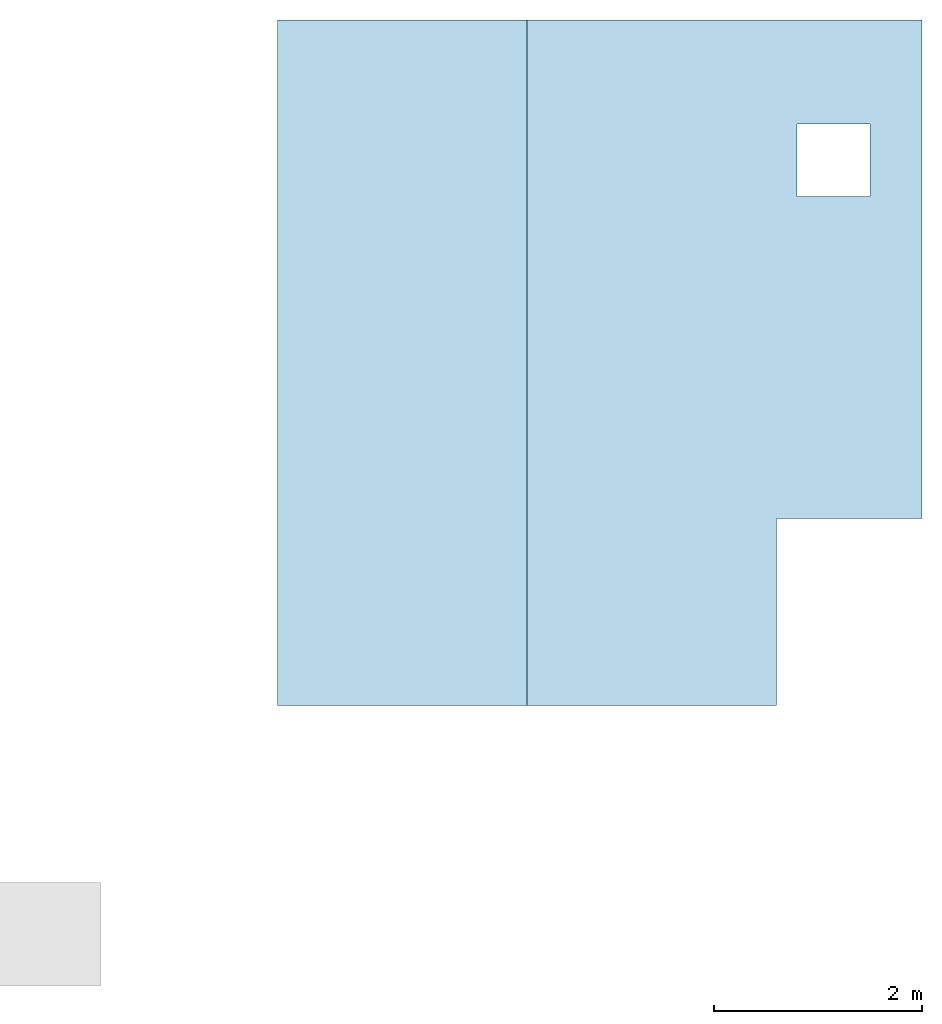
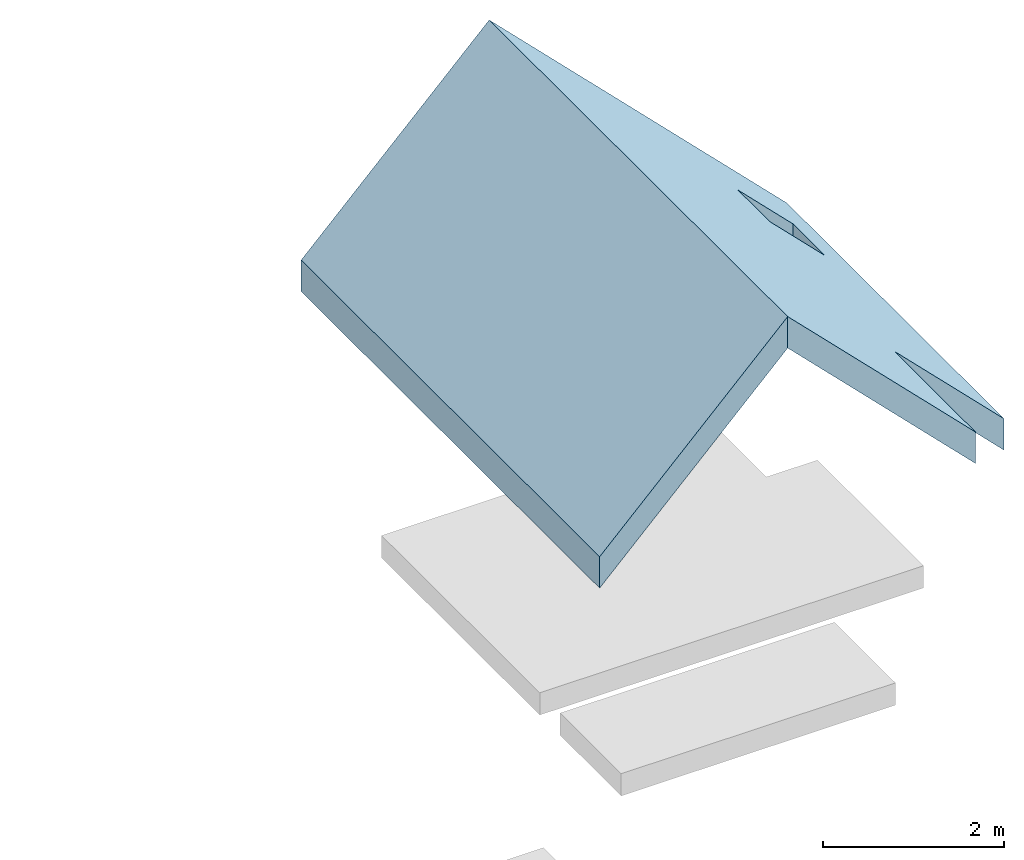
# Not in any storey, part 1 of 2: 2 slabs, 1 element without a shape of its own.
"""IFC4 building model written with IfcOpenShell, lengths in millimetres."""

from ifc_helpers import new_model, si_unit, frame, origin_with_axes, place, context, subcontext, project, spatial, triangles, material, type_object, element, aggregate, save


model = new_model("IFC4")

# Units and contexts
model_context = context("Model", 3, world=origin_with_axes())
body_context = subcontext(model_context, "Body", "Model", "MODEL_VIEW")
ifc_project = project(units=[si_unit("LENGTHUNIT", "METRE", prefix="MILLI"), si_unit("AREAUNIT", "SQUARE_METRE"), si_unit("VOLUMEUNIT", "CUBIC_METRE")], contexts=[model_context])

# Sites, building
site_1_placement = place(None, origin_with_axes())
site_1 = spatial("IfcSite", under=ifc_project, at=site_1_placement, Name="environment - site", CompositionType="COMPLEX")
site_2_placement = place(site_1_placement, frame((5800.000000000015, 5800.000000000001, -1300.0000000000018), z_axis=(0.0, 0.0, 1.0), x_axis=(1.0, 0.0, 0.0)))
site_2 = spatial("IfcSite", under=site_1, at=site_2_placement, Name="house - site", CompositionType="PARTIAL")
building_placement = place(site_2_placement, frame((-2799.999999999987, -2799.9999999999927, 1300.0), z_axis=(0.0, 0.0, 1.0), x_axis=(1.0, 0.0, 0.0)))
building = spatial("IfcBuilding", under=site_2, at=building_placement, Name="Single-family house", CompositionType="ELEMENT")

# Roof, slabs
roof_type = type_object("IfcRoofType", Name="house - roof", PredefinedType="GABLE_ROOF")
roof_placement = place(building_placement, frame((-1.1550582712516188e-11, -2.3101165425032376e-11, 1800.0000000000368), z_axis=(0.0, 0.0, 1.0), x_axis=(1.0, 0.0, 0.0)))
roof = element("IfcRoof", 1, at=roof_placement, inside=building, type_object=roof_type, Name="house - roof", ObjectType="gable_roof")
ifc_material = material(Name="composite_element_roof")
slab_type_1 = type_object("IfcSlabType", Name="house - roof - slab left", PredefinedType="ROOF")
slab_1_placement = place(roof_placement, frame((2100.0000000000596, 5999.999999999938, 3475.735931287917), z_axis=(-0.707106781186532, -1.4988010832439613e-15, 0.7071067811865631), x_axis=(8.373406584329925e-15, -1.0, 6.2537817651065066e-15)))
slab_1 = element("IfcSlab", 2, at=slab_1_placement, type_object=slab_type_1, material=ifc_material, Name="house - roof - slab left", ObjectType="roof", context=body_context, shape_type="Tessellation", body=[
    triangles([(6299.999999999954, -3094.1125496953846, 300.00000000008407), (-300.0000000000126, 299.9999999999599, 300.0000000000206), (-300.0000000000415, -3094.1125496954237, 299.99999999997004), (6300.000000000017, 300.000000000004, 300.0000000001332), (6300.000000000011, 9.384848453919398e-12, 1.414946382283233e-10), (-299.9999999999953, -3394.1125496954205, -2.0213519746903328e-11), (-300.0000000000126, 2.1657342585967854e-12, -5.053379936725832e-12), (6300.000000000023, -3394.1125496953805, 1.0106759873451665e-10), (6300.000000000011, 9.384848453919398e-12, 1.414946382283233e-10), (6299.999999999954, -3094.1125496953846, 300.00000000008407), (6300.000000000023, -3394.1125496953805, 1.0106759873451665e-10), (6300.000000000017, 300.000000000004, 300.0000000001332), (-300.0000000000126, 299.9999999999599, 300.0000000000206), (6300.000000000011, 9.384848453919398e-12, 1.414946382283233e-10), (-300.0000000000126, 2.1657342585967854e-12, -5.053379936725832e-12), (6300.000000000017, 300.000000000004, 300.0000000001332), (-300.0000000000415, -3094.1125496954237, 299.99999999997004), (-300.0000000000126, 2.1657342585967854e-12, -5.053379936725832e-12), (-299.9999999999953, -3394.1125496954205, -2.0213519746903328e-11), (-300.0000000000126, 299.9999999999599, 300.0000000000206), (6300.000000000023, -3394.1125496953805, 1.0106759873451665e-10), (-300.0000000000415, -3094.1125496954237, 299.99999999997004), (-299.9999999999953, -3394.1125496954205, -2.0213519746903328e-11), (6299.999999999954, -3094.1125496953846, 300.00000000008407)], [[1, 2, 3], [2, 1, 4], [5, 6, 7], [6, 5, 8], [9, 10, 11], [10, 9, 12], [13, 14, 15], [14, 13, 16], [17, 18, 19], [18, 17, 20], [21, 22, 23], [22, 21, 24]]),
])
slab_type_2 = type_object("IfcSlabType", Name="house - roof - slab right", PredefinedType="ROOF")
slab_2_placement = place(roof_placement, frame((2100.0000000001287, -4.0427039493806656e-11, 3475.7359312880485), z_axis=(0.7071067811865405, 1.3822276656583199e-14, 0.7071067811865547), x_axis=(-2.5296203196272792e-15, 1.0, -1.7018030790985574e-14)))
slab_2 = element("IfcSlab", 3, at=slab_2_placement, type_object=slab_type_2, material=ifc_material, Name="house - roof - slab right", ObjectType="roof", context=body_context, shape_type="Tessellation", body=[
    triangles([(-299.99999999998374, -3094.112549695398, 299.99999999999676), (-300.0000000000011, -1.0106759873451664e-11, 1.2994405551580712e-11), (-300.0000000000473, -3394.112549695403, 1.2272494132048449e-11), (-299.9999999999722, 299.9999999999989, 299.999999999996), (-300.0000000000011, -1.0106759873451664e-11, 1.2994405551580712e-11), (6300.00000000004, 299.9999999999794, 299.99999999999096), (6300.000000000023, 2.7432633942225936e-11, -3.320792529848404e-11), (-299.9999999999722, 299.9999999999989, 299.999999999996), (1500.0000000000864, -5074.011537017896, 299.9999999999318), (4599.999999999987, -4366.904755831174, 299.99999999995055), (4599.999999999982, -3376.955262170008, 299.99999999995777), (6300.000000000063, -5074.011537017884, 299.99999999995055), (5299.99999999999, -4366.904755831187, 299.9999999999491), (6300.00000000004, 299.9999999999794, 299.99999999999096), (1500.000000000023, -3094.112549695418, 299.99999999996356), (-299.9999999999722, 299.9999999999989, 299.999999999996), (-299.99999999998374, -3094.112549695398, 299.99999999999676), (5299.9999999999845, -3376.955262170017, 299.999999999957), (1500.0000000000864, -5074.011537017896, 299.9999999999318), (1500.0000000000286, -3394.1125496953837, -1.3716316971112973e-11), (1500.000000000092, -5374.011537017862, -3.97051280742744e-11), (1500.000000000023, -3094.112549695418, 299.99999999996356), (-300.0000000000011, -1.0106759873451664e-11, 1.2994405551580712e-11), (1500.0000000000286, -3394.1125496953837, -1.3716316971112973e-11), (-300.0000000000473, -3394.112549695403, 1.2272494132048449e-11), (6300.000000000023, 2.7432633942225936e-11, -3.320792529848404e-11), (1500.000000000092, -5374.011537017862, -3.97051280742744e-11), (4599.999999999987, -3676.955262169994, -3.1764102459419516e-11), (5299.99999999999, -3676.955262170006, -3.826130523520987e-11), (5299.999999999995, -4666.904755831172, -4.187086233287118e-11), (4599.999999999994, -4666.904755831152, -3.320792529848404e-11), (6300.0000000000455, -5374.011537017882, -3.39298367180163e-11), (6300.000000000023, 2.7432633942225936e-11, -3.320792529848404e-11), (6300.000000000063, -5074.011537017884, 299.99999999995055), (6300.0000000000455, -5374.011537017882, -3.39298367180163e-11), (6300.00000000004, 299.9999999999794, 299.99999999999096), (1500.0000000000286, -3394.1125496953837, -1.3716316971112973e-11), (-299.99999999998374, -3094.112549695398, 299.99999999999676), (-300.0000000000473, -3394.112549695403, 1.2272494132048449e-11), (1500.000000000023, -3094.112549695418, 299.99999999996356), (1500.000000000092, -5374.011537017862, -3.97051280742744e-11), (6300.000000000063, -5074.011537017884, 299.99999999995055), (1500.0000000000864, -5074.011537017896, 299.9999999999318), (6300.0000000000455, -5374.011537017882, -3.39298367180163e-11), (5299.9999999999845, -3376.955262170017, 299.999999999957), (4599.999999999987, -3676.955262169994, -3.1764102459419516e-11), (5299.99999999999, -3676.955262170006, -3.826130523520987e-11), (4599.999999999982, -3376.955262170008, 299.99999999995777), (4599.999999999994, -4666.904755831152, -3.320792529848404e-11), (5299.99999999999, -4366.904755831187, 299.9999999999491), (5299.999999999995, -4666.904755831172, -4.187086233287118e-11), (4599.999999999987, -4366.904755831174, 299.99999999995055), (4599.999999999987, -3676.955262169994, -3.1764102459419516e-11), (4599.999999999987, -4366.904755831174, 299.99999999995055), (4599.999999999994, -4666.904755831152, -3.320792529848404e-11), (4599.999999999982, -3376.955262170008, 299.99999999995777), (5299.99999999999, -4366.904755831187, 299.9999999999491), (5299.99999999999, -3676.955262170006, -3.826130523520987e-11), (5299.999999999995, -4666.904755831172, -4.187086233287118e-11), (5299.9999999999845, -3376.955262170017, 299.999999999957)], [[1, 2, 3], [2, 1, 4], [5, 6, 7], [6, 5, 8], [9, 10, 11], [10, 9, 12], [10, 12, 13], [13, 12, 14], [15, 16, 17], [16, 15, 14], [14, 15, 9], [14, 9, 11], [14, 11, 18], [14, 18, 13], [19, 20, 21], [20, 19, 22], [23, 24, 25], [24, 23, 26], [24, 26, 27], [27, 26, 28], [28, 26, 29], [29, 26, 30], [27, 31, 32], [31, 27, 28], [32, 31, 30], [32, 30, 26], [33, 34, 35], [34, 33, 36], [37, 38, 39], [38, 37, 40], [41, 42, 43], [42, 41, 44], [45, 46, 47], [46, 45, 48], [49, 50, 51], [50, 49, 52], [53, 54, 55], [54, 53, 56], [57, 58, 59], [58, 57, 60]]),
])
aggregate(roof, [slab_1, slab_2])

save(model, "model.ifc")
